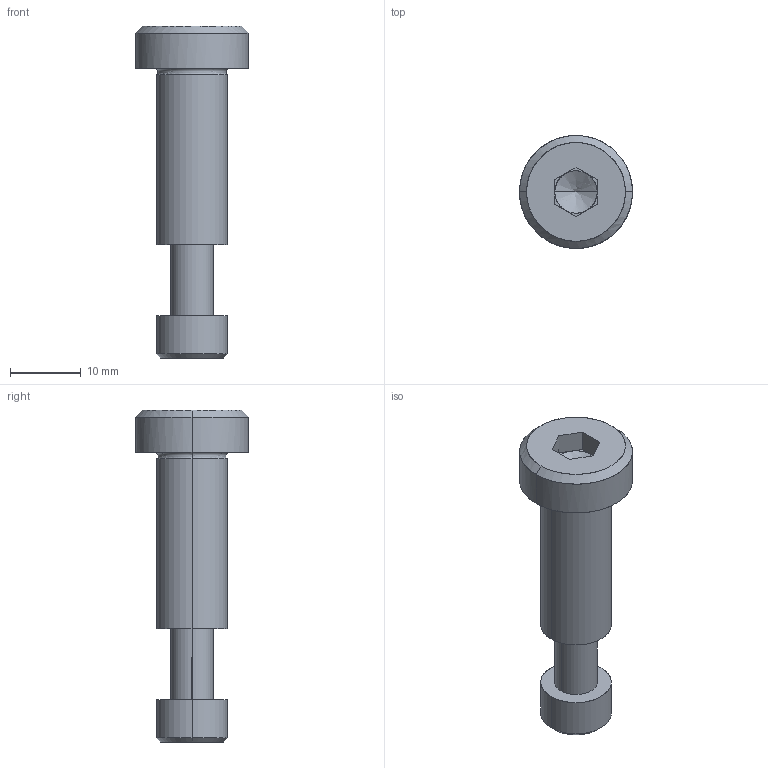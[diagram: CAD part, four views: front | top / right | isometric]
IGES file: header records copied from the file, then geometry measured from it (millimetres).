
Global section: file name: E:\UnigraphicsGraphicData\MISUMI_PRESS-PARTS\IGES\3d_sbtc10-25_05105_r00.igs; native system: NX V5.0; preprocessor: UGS NX IGES V5.0; author: MISUMI; date: 20110105.162442; units: millimetre
Bounding box: 16 x 16 x 47 mm (x, y, z)
Surface area: 2694.7 mm2 (no closed solid volume)
Topology: 0 solids, 0 shells, 52 faces, 280 edges, 276 vertices
Faces by surface type: bspline 52
